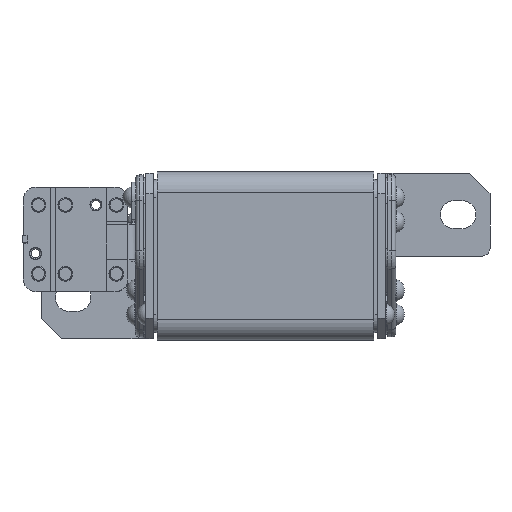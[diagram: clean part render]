
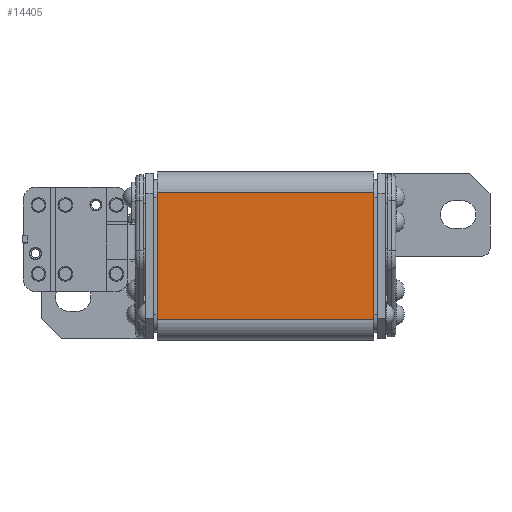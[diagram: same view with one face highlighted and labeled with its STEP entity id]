
A CAD part, left-side view. The second image highlights one B-rep face of the part: STEP entity #14405.
In plain terms, the highlighted planar face has unit normal (-1, 0, 0).
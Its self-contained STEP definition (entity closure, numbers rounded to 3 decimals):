
#539 = CARTESIAN_POINT ( 'NONE',  ( -33., -42.5, 25. ) ) ;
#1457 = LINE ( 'NONE', #29902, #3369 ) ;
#1772 = DIRECTION ( 'NONE',  ( 0., 0., -1. ) ) ;
#3147 = DIRECTION ( 'NONE',  ( 0., 0., 1. ) ) ;
#3369 = VECTOR ( 'NONE', #10810, 1000. ) ;
#3657 = FACE_OUTER_BOUND ( 'NONE', #15388, .T. ) ;
#4154 = CARTESIAN_POINT ( 'NONE',  ( -33., 42.5, -25. ) ) ;
#5706 = EDGE_CURVE ( 'NONE', #31146, #19896, #11847, .T. ) ;
#8139 = ORIENTED_EDGE ( 'NONE', *, *, #10950, .T. ) ;
#8344 = VECTOR ( 'NONE', #1772, 1000. ) ;
#9149 = CARTESIAN_POINT ( 'NONE',  ( -33., -42.5, -25. ) ) ;
#10800 = CARTESIAN_POINT ( 'NONE',  ( -33., -42.5, -25. ) ) ;
#10810 = DIRECTION ( 'NONE',  ( 0., 0., -1. ) ) ;
#10950 = EDGE_CURVE ( 'NONE', #21740, #16525, #22715, .T. ) ;
#11591 = EDGE_CURVE ( 'NONE', #21740, #31146, #1457, .T. ) ;
#11847 = LINE ( 'NONE', #9149, #17921 ) ;
#12827 = CARTESIAN_POINT ( 'NONE',  ( -33., -42.5, -25. ) ) ;
#13974 = LINE ( 'NONE', #23612, #8344 ) ;
#14405 = ADVANCED_FACE ( 'NONE', ( #3657 ), #22362, .F. ) ;
#15388 = EDGE_LOOP ( 'NONE', ( #19531, #24434, #29258, #8139 ) ) ;
#16525 = VERTEX_POINT ( 'NONE', #25609 ) ;
#17413 = DIRECTION ( 'NONE',  ( 0., 1., 0. ) ) ;
#17921 = VECTOR ( 'NONE', #18680, 1000. ) ;
#18680 = DIRECTION ( 'NONE',  ( 0., 1., 0. ) ) ;
#19531 = ORIENTED_EDGE ( 'NONE', *, *, #30751, .T. ) ;
#19896 = VERTEX_POINT ( 'NONE', #4154 ) ;
#21740 = VERTEX_POINT ( 'NONE', #28647 ) ;
#22362 = PLANE ( 'NONE',  #22980 ) ;
#22715 = LINE ( 'NONE', #539, #28438 ) ;
#22980 = AXIS2_PLACEMENT_3D ( 'NONE', #12827, #24919, #3147 ) ;
#23612 = CARTESIAN_POINT ( 'NONE',  ( -33., 42.5, -25. ) ) ;
#24434 = ORIENTED_EDGE ( 'NONE', *, *, #5706, .F. ) ;
#24919 = DIRECTION ( 'NONE',  ( 1., 0., 0. ) ) ;
#25609 = CARTESIAN_POINT ( 'NONE',  ( -33., 42.5, 25. ) ) ;
#28438 = VECTOR ( 'NONE', #17413, 1000. ) ;
#28647 = CARTESIAN_POINT ( 'NONE',  ( -33., -42.5, 25. ) ) ;
#29258 = ORIENTED_EDGE ( 'NONE', *, *, #11591, .F. ) ;
#29902 = CARTESIAN_POINT ( 'NONE',  ( -33., -42.5, -25. ) ) ;
#30751 = EDGE_CURVE ( 'NONE', #16525, #19896, #13974, .T. ) ;
#31146 = VERTEX_POINT ( 'NONE', #10800 ) ;
